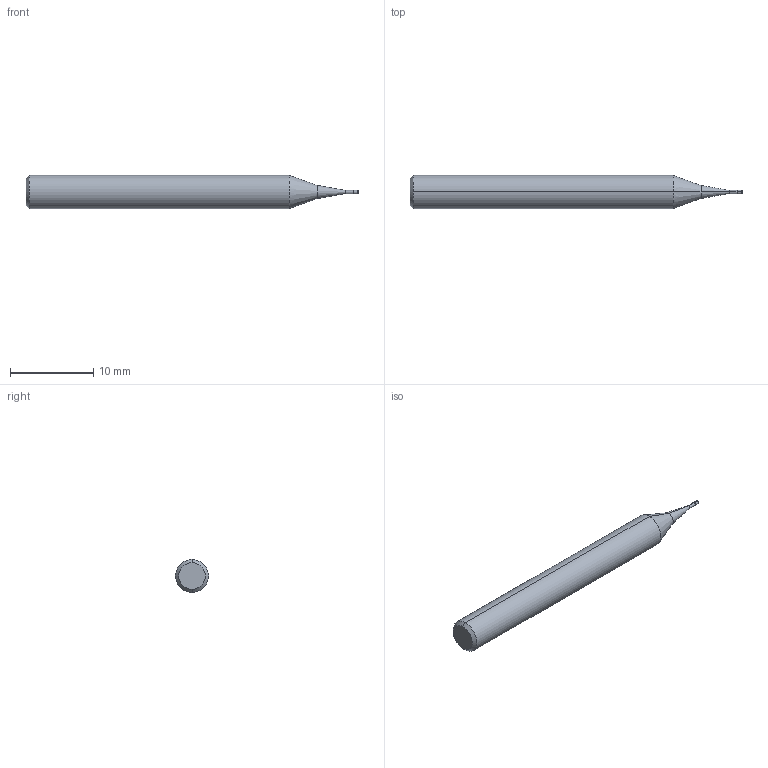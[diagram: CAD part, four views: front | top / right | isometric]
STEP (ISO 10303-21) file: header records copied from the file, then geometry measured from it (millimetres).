
FILE_DESCRIPTION (( 'STEP AP214' ), '1' );
FILE_NAME ('SEME61004005015E.STEP', '2018-04-09T08:34:00', ( '' ), ( '' ), 'SwSTEP 2.0', 'SolidWorks 2014', '' );
FILE_SCHEMA (( 'AUTOMOTIVE_DESIGN' ));
Length unit declared in the file: millimetre
Products named in the file (1): SEME61004005015E
Bounding box: 40 x 4 x 4 mm (x, y, z)
Volume: 422.6 mm3; surface area: 452.1 mm2
Topology: 2 solids, 2 shells, 18 faces, 32 edges, 18 vertices
Faces by surface type: cylinder 6, cone 6, plane 4, torus 2
Entity records: 479 total; most frequent: DIRECTION 90, CARTESIAN_POINT 69, ORIENTED_EDGE 64, AXIS2_PLACEMENT_3D 39, EDGE_CURVE 32, CIRCLE 20, EDGE_LOOP 18, ADVANCED_FACE 18
